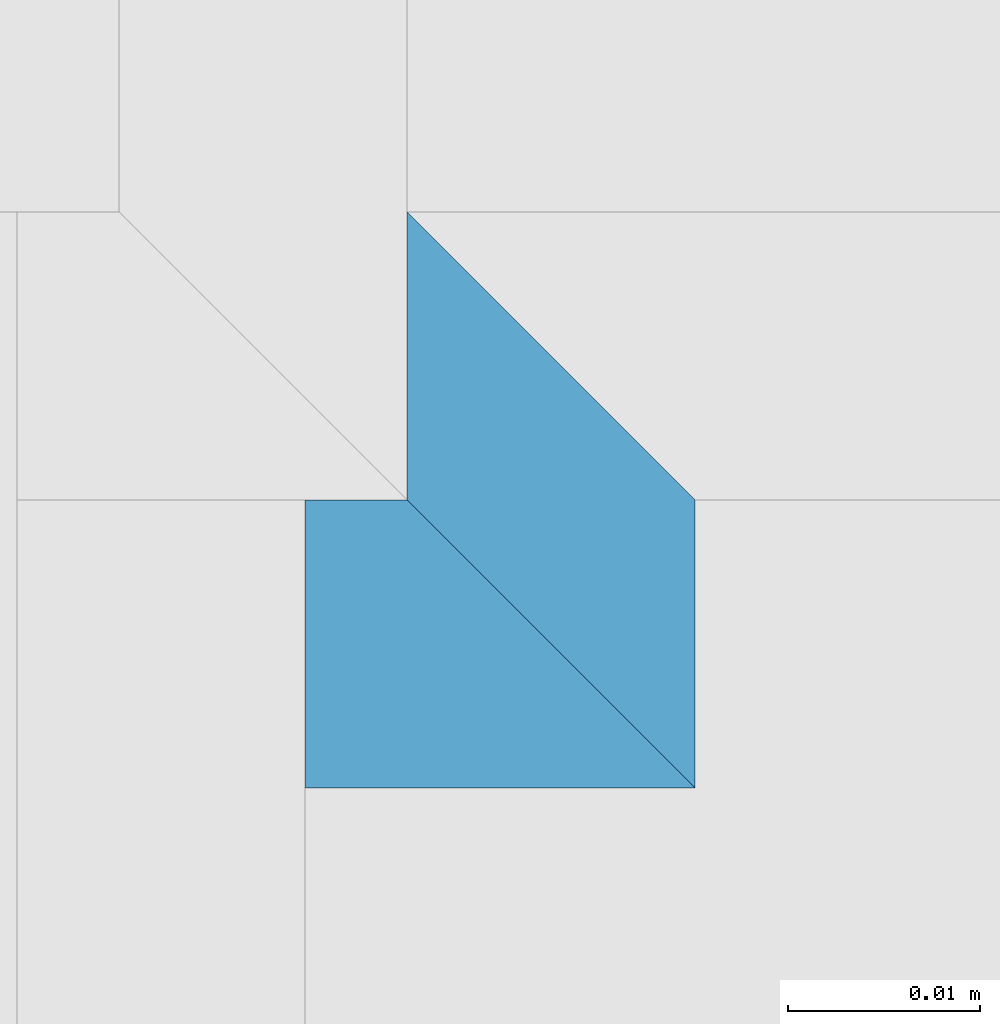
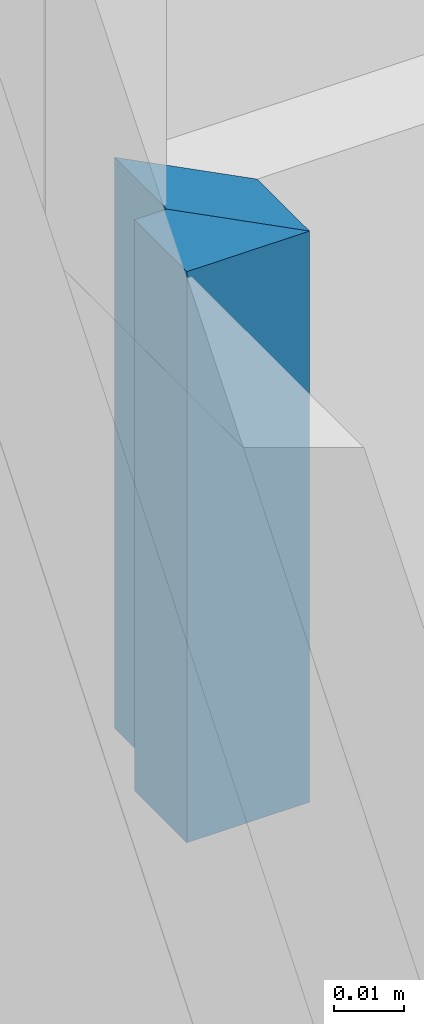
# One storey, part 59 of 169: 2 building element parts, 2 elements without a shape of their own.
"""IFC2X3 building model written with IfcOpenShell, lengths in metres."""

from ifc_helpers import new_model, entity, si_unit, converted_unit, derived_unit, money_unit, direction, frame, origin_with_axes, place, context, subcontext, project, spatial, polyline, outline, extrude, material, type_object, element, aggregate, save


model = new_model("IFC2X3")

# Units and contexts
model_context = context("Model", 3, precision=1e-05, world=origin_with_axes(), true_north=direction((0.0, 1.0)))
body_context = subcontext(model_context, "Body", "Model", "MODEL_VIEW", scale=1.0)
ifc_project = project(units=[si_unit("LENGTHUNIT", "METRE"), si_unit("AREAUNIT", "SQUARE_METRE"), si_unit("VOLUMEUNIT", "CUBIC_METRE"), si_unit("ABSORBEDDOSEUNIT", "GRAY"), si_unit("AMOUNTOFSUBSTANCEUNIT", "MOLE"), si_unit("DOSEEQUIVALENTUNIT", "SIEVERT"), si_unit("ELECTRICCAPACITANCEUNIT", "FARAD"), si_unit("ELECTRICCHARGEUNIT", "COULOMB"), si_unit("ELECTRICCONDUCTANCEUNIT", "SIEMENS"), si_unit("ELECTRICCURRENTUNIT", "AMPERE"), si_unit("ELECTRICRESISTANCEUNIT", "OHM"), si_unit("ELECTRICVOLTAGEUNIT", "VOLT"), si_unit("ENERGYUNIT", "JOULE"), si_unit("FORCEUNIT", "NEWTON"), si_unit("FREQUENCYUNIT", "HERTZ"), si_unit("ILLUMINANCEUNIT", "LUX"), si_unit("INDUCTANCEUNIT", "HENRY"), si_unit("LUMINOUSFLUXUNIT", "LUMEN"), si_unit("LUMINOUSINTENSITYUNIT", "CANDELA"), si_unit("MAGNETICFLUXDENSITYUNIT", "TESLA"), si_unit("MAGNETICFLUXUNIT", "WEBER"), si_unit("MASSUNIT", "GRAM"), converted_unit("PLANEANGLEUNIT", "degree", entity("IfcReal", 0.0174532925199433), si_unit("PLANEANGLEUNIT", "RADIAN"), dimensions=[0, 0, 0, 0, 0, 0, 0]), si_unit("POWERUNIT", "WATT"), si_unit("PRESSUREUNIT", "PASCAL"), si_unit("RADIOACTIVITYUNIT", "BECQUEREL"), si_unit("SOLIDANGLEUNIT", "STERADIAN"), si_unit("THERMODYNAMICTEMPERATUREUNIT", "KELVIN"), si_unit("TIMEUNIT", "SECOND"), derived_unit("ACCELERATIONUNIT", [(si_unit("LENGTHUNIT", "METRE"), 1), (si_unit("TIMEUNIT", "SECOND"), -2)]), derived_unit("ANGULARVELOCITYUNIT", [(converted_unit("PLANEANGLEUNIT", "degree", entity("IfcReal", 0.0174532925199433), si_unit("PLANEANGLEUNIT", "RADIAN"), dimensions=[0, 0, 0, 0, 0, 0, 0]), 1), (si_unit("TIMEUNIT", "SECOND"), -1)]), derived_unit("CURVATUREUNIT", [(converted_unit("PLANEANGLEUNIT", "degree", entity("IfcReal", 0.0174532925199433), si_unit("PLANEANGLEUNIT", "RADIAN"), dimensions=[0, 0, 0, 0, 0, 0, 0]), 1), (si_unit("LENGTHUNIT", "METRE"), -1)]), derived_unit("DYNAMICVISCOSITYUNIT", [(si_unit("PRESSUREUNIT", "PASCAL"), 1), (si_unit("TIMEUNIT", "SECOND"), 1)]), derived_unit("HEATFLUXDENSITYUNIT", [(si_unit("POWERUNIT", "WATT"), 1), (si_unit("LENGTHUNIT", "METRE"), -2)]), derived_unit("HEATINGVALUEUNIT", [(si_unit("ENERGYUNIT", "JOULE"), 1), (si_unit("MASSUNIT", "GRAM"), -1)]), derived_unit("INTEGERCOUNTRATEUNIT", [(si_unit("TIMEUNIT", "SECOND"), -1)]), derived_unit("IONCONCENTRATIONUNIT", [(si_unit("MASSUNIT", "GRAM"), 1), (si_unit("VOLUMEUNIT", "CUBIC_METRE"), -1)]), derived_unit("ISOTHERMALMOISTURECAPACITYUNIT", [(si_unit("VOLUMEUNIT", "CUBIC_METRE"), 1), (si_unit("MASSUNIT", "GRAM"), -1)]), derived_unit("KINEMATICVISCOSITYUNIT", [(si_unit("AREAUNIT", "SQUARE_METRE"), 1), (si_unit("TIMEUNIT", "SECOND"), -1)]), derived_unit("LINEARFORCEUNIT", [(si_unit("FORCEUNIT", "NEWTON"), 1), (si_unit("LENGTHUNIT", "METRE"), -1)]), derived_unit("LINEARMOMENTUNIT", [(si_unit("FORCEUNIT", "NEWTON"), 1), (si_unit("LENGTHUNIT", "METRE"), -1)]), derived_unit("LINEARSTIFFNESSUNIT", [(si_unit("FORCEUNIT", "NEWTON"), 1), (si_unit("LENGTHUNIT", "METRE"), -1)]), derived_unit("LINEARVELOCITYUNIT", [(si_unit("LENGTHUNIT", "METRE"), 1), (si_unit("TIMEUNIT", "SECOND"), -1)]), derived_unit("LUMINOUSINTENSITYDISTRIBUTIONUNIT", [(si_unit("LUMINOUSINTENSITYUNIT", "CANDELA"), 1), (si_unit("LUMINOUSFLUXUNIT", "LUMEN"), -1)]), derived_unit("MASSDENSITYUNIT", [(si_unit("MASSUNIT", "GRAM"), 1), (si_unit("VOLUMEUNIT", "CUBIC_METRE"), -1)]), derived_unit("MASSFLOWRATEUNIT", [(si_unit("MASSUNIT", "GRAM"), 1), (si_unit("TIMEUNIT", "SECOND"), -1)]), derived_unit("MASSPERLENGTHUNIT", [(si_unit("MASSUNIT", "GRAM"), 1), (si_unit("LENGTHUNIT", "METRE"), -1)]), derived_unit("MODULUSOFELASTICITYUNIT", [(si_unit("FORCEUNIT", "NEWTON"), 1), (si_unit("AREAUNIT", "SQUARE_METRE"), -1)]), derived_unit("MODULUSOFLINEARSUBGRADEREACTIONUNIT", [(si_unit("FORCEUNIT", "NEWTON"), 1), (si_unit("LENGTHUNIT", "METRE"), -2)]), derived_unit("MODULUSOFROTATIONALSUBGRADEREACTIONUNIT", [(si_unit("FORCEUNIT", "NEWTON"), 1), (si_unit("LENGTHUNIT", "METRE"), 1)]), derived_unit("MODULUSOFSUBGRADEREACTIONUNIT", [(si_unit("FORCEUNIT", "NEWTON"), 1), (si_unit("VOLUMEUNIT", "CUBIC_METRE"), -1)]), derived_unit("MOISTUREDIFFUSIVITYUNIT", [(si_unit("VOLUMEUNIT", "CUBIC_METRE"), 1), (si_unit("TIMEUNIT", "SECOND"), -1)]), derived_unit("MOLECULARWEIGHTUNIT", [(si_unit("MASSUNIT", "GRAM"), 1), (si_unit("AMOUNTOFSUBSTANCEUNIT", "MOLE"), -1)]), derived_unit("PLANARFORCEUNIT", [(si_unit("FORCEUNIT", "NEWTON"), 1), (si_unit("LENGTHUNIT", "METRE"), -2)]), derived_unit("ROTATIONALFREQUENCYUNIT", [(si_unit("TIMEUNIT", "SECOND"), -1)]), derived_unit("ROTATIONALMASSUNIT", [(si_unit("MASSUNIT", "GRAM"), 1), (si_unit("LENGTHUNIT", "METRE"), 2)]), derived_unit("ROTATIONALSTIFFNESSUNIT", [(si_unit("FORCEUNIT", "NEWTON"), 1), (si_unit("LENGTHUNIT", "METRE"), 1), (converted_unit("PLANEANGLEUNIT", "degree", entity("IfcReal", 0.0174532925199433), si_unit("PLANEANGLEUNIT", "RADIAN"), dimensions=[0, 0, 0, 0, 0, 0, 0]), -1)]), derived_unit("SECTIONAREAINTEGRALUNIT", [(si_unit("LENGTHUNIT", "METRE"), 5)]), derived_unit("SECTIONMODULUSUNIT", [(si_unit("LENGTHUNIT", "METRE"), 3)]), derived_unit("SHEARMODULUSUNIT", [(si_unit("FORCEUNIT", "NEWTON"), 1), (si_unit("AREAUNIT", "SQUARE_METRE"), -1)]), derived_unit("SOUNDPOWERUNIT", [(si_unit("ENERGYUNIT", "JOULE"), 1), (si_unit("TIMEUNIT", "SECOND"), -1)]), derived_unit("SPECIFICHEATCAPACITYUNIT", [(si_unit("FORCEUNIT", "NEWTON"), 1), (si_unit("MASSUNIT", "GRAM"), -1), (si_unit("THERMODYNAMICTEMPERATUREUNIT", "KELVIN"), -1)]), derived_unit("TEMPERATUREGRADIENTUNIT", [(si_unit("THERMODYNAMICTEMPERATUREUNIT", "KELVIN"), 1), (si_unit("LENGTHUNIT", "METRE"), -1)]), derived_unit("THERMALADMITTANCEUNIT", [(si_unit("POWERUNIT", "WATT"), 1), (si_unit("AREAUNIT", "SQUARE_METRE"), -1), (si_unit("THERMODYNAMICTEMPERATUREUNIT", "KELVIN"), -1)]), derived_unit("THERMALCONDUCTANCEUNIT", [(si_unit("POWERUNIT", "WATT"), 1), (si_unit("LENGTHUNIT", "METRE"), -1), (si_unit("THERMODYNAMICTEMPERATUREUNIT", "KELVIN"), -1)]), derived_unit("THERMALEXPANSIONCOEFFICIENTUNIT", [(si_unit("THERMODYNAMICTEMPERATUREUNIT", "KELVIN"), -1)]), derived_unit("THERMALRESISTANCEUNIT", [(si_unit("AREAUNIT", "SQUARE_METRE"), 1), (si_unit("POWERUNIT", "WATT"), -1)]), derived_unit("THERMALTRANSMITTANCEUNIT", [(si_unit("POWERUNIT", "WATT"), 1), (si_unit("AREAUNIT", "SQUARE_METRE"), -1), (si_unit("THERMODYNAMICTEMPERATUREUNIT", "KELVIN"), -1)]), derived_unit("TORQUEUNIT", [(si_unit("FORCEUNIT", "NEWTON"), 1), (si_unit("LENGTHUNIT", "METRE"), 1)]), derived_unit("VAPORPERMEABILITYUNIT", [(si_unit("MASSUNIT", "GRAM"), 1), (si_unit("TIMEUNIT", "SECOND"), -1)]), derived_unit("VOLUMETRICFLOWRATEUNIT", [(si_unit("VOLUMEUNIT", "CUBIC_METRE"), 1), (si_unit("TIMEUNIT", "SECOND"), -1)]), derived_unit("WARPINGCONSTANTUNIT", [(si_unit("LENGTHUNIT", "METRE"), 6)]), derived_unit("WARPINGMOMENTUNIT", [(si_unit("FORCEUNIT", "NEWTON"), 1), (si_unit("LENGTHUNIT", "METRE"), 2)]), money_unit("GBP")], contexts=[model_context])

# Site, building, storey
site_placement = place(None, origin_with_axes())
site = spatial("IfcSite", under=ifc_project, at=site_placement, Name="Site", CompositionType="ELEMENT")
building_placement = place(site_placement, origin_with_axes())
building = spatial("IfcBuilding", under=site, at=building_placement, Name="Building01", CompositionType="ELEMENT")
storey_placement = place(building_placement, frame((0.0, 0.0, 5.15), z_axis=(0.0, 0.0, 1.0), x_axis=(1.0, 0.0, 0.0)))
storey = spatial("IfcBuildingStorey", under=building, at=storey_placement, Name="1F", CompositionType="ELEMENT", Elevation=5.15)

# Wall, building element part
wall_type = type_object("IfcWallType", Name="SHE_A-Walls_Type06f_ExternalWallInsulation_48+15mm", PredefinedType="NOTDEFINED")
wall_1_placement = place(storey_placement, frame((7.265, 14.8, 0.0), z_axis=(0.0, 0.0, 1.0), x_axis=(0.0, -1.0, 0.0)))
wall_1 = element("IfcWall", 1, at=wall_1_placement, inside=storey, type_object=wall_type, Name="6F", ObjectType="SHE_A-Walls_Type06f_ExternalWallInsulation_48+15mm")
ifc_material = material(Name="A_BSUK_Walls_Timber")
building_element_part_1_placement = place(wall_1_placement, origin_with_axes())
building_element_part_1 = element("IfcBuildingElementPart", 2, at=building_element_part_1_placement, material=ifc_material, Name="4", context=body_context, shape_type="SweptSolid", body=[
    extrude(outline(polyline([(0.248, 0.06), (0.233, 0.06), (0.218, 0.045), (0.233, 0.045), (0.248, 0.06)])), frame((0.0, 0.0, 0.015), z_axis=(0.0, 0.0, 1.0), x_axis=(1.0, 0.0, 0.0)), (0.0, 0.0, 1.0), 0.1),
])
aggregate(wall_1, [building_element_part_1])

wall_2_placement = place(storey_placement, frame((7.283, 14.612, 0.0), z_axis=(0.0, 0.0, 1.0), x_axis=(-1.0, 0.0, 0.0)))
wall_2 = element("IfcWall", 3, at=wall_2_placement, inside=storey, type_object=wall_type, Name="6F", ObjectType="SHE_A-Walls_Type06f_ExternalWallInsulation_48+15mm")
building_element_part_2_placement = place(wall_2_placement, origin_with_axes())
building_element_part_2 = element("IfcBuildingElementPart", 4, at=building_element_part_2_placement, material=ifc_material, Name="6", context=body_context, shape_type="SweptSolid", body=[
    extrude(outline(polyline([(-0.021669, 0.06), (-0.042, 0.06), (-0.027, 0.045), (-0.021669, 0.045), (-0.021669, 0.06)])), frame((0.0, 0.0, 0.015), z_axis=(0.0, 0.0, 1.0), x_axis=(1.0, 0.0, 0.0)), (0.0, 0.0, 1.0), 0.1),
])
aggregate(wall_2, [building_element_part_2])

save(model, "model.ifc")
